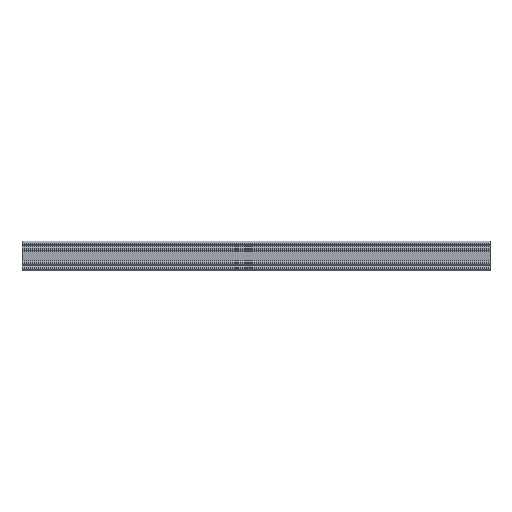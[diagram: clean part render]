
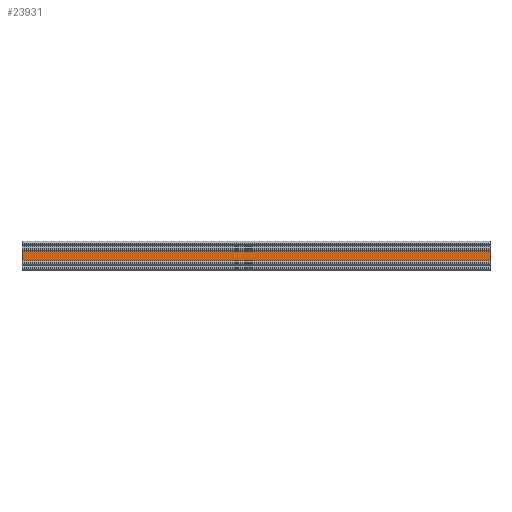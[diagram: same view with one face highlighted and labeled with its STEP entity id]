
A CAD part, left-side view. The second image highlights one B-rep face of the part: STEP entity #23931.
In plain terms, the highlighted planar face has unit normal (-1, 0, 0).
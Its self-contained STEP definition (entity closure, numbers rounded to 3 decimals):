
#143 = LINE ( 'NONE', #11433, #16195 ) ;
#1164 = VERTEX_POINT ( 'NONE', #37537 ) ;
#1879 = CARTESIAN_POINT ( 'NONE',  ( -8., 384., -5.525 ) ) ;
#2491 = ORIENTED_EDGE ( 'NONE', *, *, #8052, .T. ) ;
#3082 = DIRECTION ( 'NONE',  ( 0., 0., -1. ) ) ;
#3437 = CARTESIAN_POINT ( 'NONE',  ( -8., 0., -5.525 ) ) ;
#6181 = PLANE ( 'NONE',  #34997 ) ;
#8052 = EDGE_CURVE ( 'NONE', #37830, #23712, #19240, .T. ) ;
#8949 = VECTOR ( 'NONE', #13130, 1000. ) ;
#9191 = ORIENTED_EDGE ( 'NONE', *, *, #29850, .F. ) ;
#9371 = VECTOR ( 'NONE', #9381, 1000. ) ;
#9381 = DIRECTION ( 'NONE',  ( 0., 0., -1. ) ) ;
#11433 = CARTESIAN_POINT ( 'NONE',  ( -8., 0., 5.525 ) ) ;
#13130 = DIRECTION ( 'NONE',  ( 0., 1., 0. ) ) ;
#13469 = ORIENTED_EDGE ( 'NONE', *, *, #25235, .F. ) ;
#15473 = VECTOR ( 'NONE', #23332, 1000. ) ;
#16195 = VECTOR ( 'NONE', #3082, 1000. ) ;
#19240 = LINE ( 'NONE', #33318, #9371 ) ;
#21317 = ORIENTED_EDGE ( 'NONE', *, *, #45263, .T. ) ;
#23332 = DIRECTION ( 'NONE',  ( 0., 1., 0. ) ) ;
#23612 = CARTESIAN_POINT ( 'NONE',  ( -8., 0., 5.525 ) ) ;
#23712 = VERTEX_POINT ( 'NONE', #1879 ) ;
#23931 = ADVANCED_FACE ( 'NONE', ( #40152 ), #6181, .F. ) ;
#25235 = EDGE_CURVE ( 'NONE', #48902, #23712, #28423, .T. ) ;
#28423 = LINE ( 'NONE', #42989, #15473 ) ;
#29850 = EDGE_CURVE ( 'NONE', #1164, #48902, #143, .T. ) ;
#33318 = CARTESIAN_POINT ( 'NONE',  ( -8., 384., 5.525 ) ) ;
#33954 = DIRECTION ( 'NONE',  ( 0., 0., -1. ) ) ;
#34569 = EDGE_LOOP ( 'NONE', ( #2491, #13469, #9191, #21317 ) ) ;
#34997 = AXIS2_PLACEMENT_3D ( 'NONE', #49500, #38119, #33954 ) ;
#37344 = LINE ( 'NONE', #23612, #8949 ) ;
#37537 = CARTESIAN_POINT ( 'NONE',  ( -8., 0., 5.525 ) ) ;
#37830 = VERTEX_POINT ( 'NONE', #43331 ) ;
#38119 = DIRECTION ( 'NONE',  ( 1., 0., 0. ) ) ;
#40152 = FACE_OUTER_BOUND ( 'NONE', #34569, .T. ) ;
#42989 = CARTESIAN_POINT ( 'NONE',  ( -8., 0., -5.525 ) ) ;
#43331 = CARTESIAN_POINT ( 'NONE',  ( -8., 384., 5.525 ) ) ;
#45263 = EDGE_CURVE ( 'NONE', #1164, #37830, #37344, .T. ) ;
#48902 = VERTEX_POINT ( 'NONE', #3437 ) ;
#49500 = CARTESIAN_POINT ( 'NONE',  ( -8., 0., 5.525 ) ) ;
